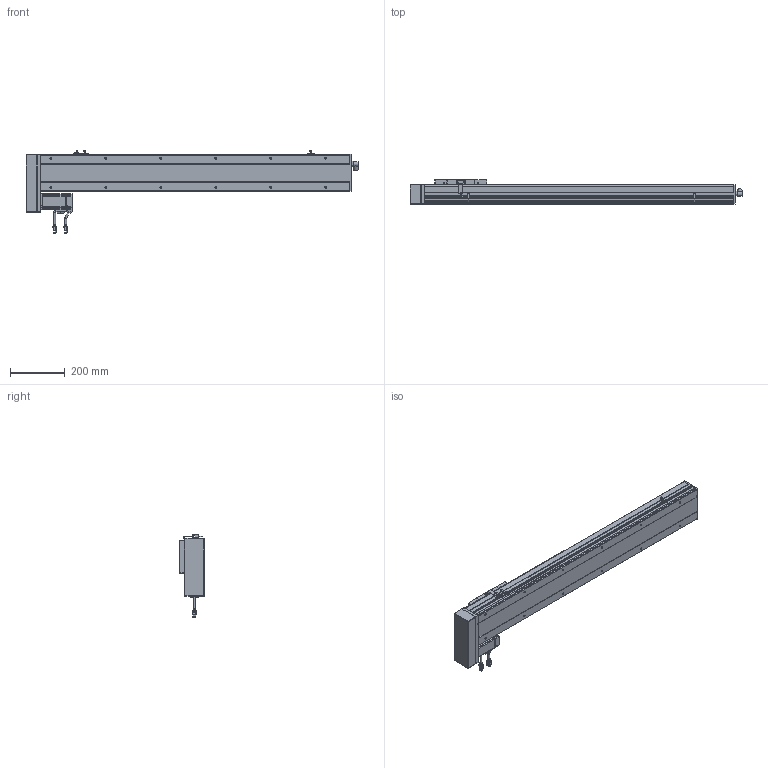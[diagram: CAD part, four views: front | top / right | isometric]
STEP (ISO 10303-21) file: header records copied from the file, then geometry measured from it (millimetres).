
FILE_DESCRIPTION(/* description */ ('STEP AP214'),/* implementation_level */ '2;1');
FILE_NAME(/* name */ 'PSC140-L05-S850-BR-P40-C1-N(0)',/* time_stamp */ '2022-06-13T03:35:34+02:00',/* author */ ('License CC BY-ND 4.0'),/* organization */ ('CADENAS'),/* preprocessor_version */ 'ST-DEVELOPER v18.102',/* originating_system */ 'PARTsolutions',/* authorisation */ ' ');
FILE_SCHEMA (('AUTOMOTIVE_DESIGN {1 0 10303 214 3 1 1}'));
Length unit declared in the file: millimetre
Products named in the file (11): PSC140-L05-S850-BR-P40-C1-N(0); P40-s2; P40-c2; P40-s1; P40-c1; P40-p1; PSC140-BR-body2; PSC140-sensor; PSC140-BR-SLIDER; PSC140-S850-BR-P40-C1_BODY1; PSC140-L05-S850-BR-P40-C1-N(0)_dummy
Assembly tree (12 placements, depth 2):
  PSC140-L05-S850-BR-P40-C1-N(0)
    P40-s2
    P40-c2
    P40-s1
    P40-c1
    P40-p1
    PSC140-BR-body2
    PSC140-sensor  x3
    PSC140-BR-SLIDER
    PSC140-S850-BR-P40-C1_BODY1
    PSC140-L05-S850-BR-P40-C1-N(0)_dummy
Bounding box: 1208 x 91 x 300.88 mm (x, y, z)
Volume: 12287178.4 mm3; surface area: 717465.8 mm2
Topology: 11 solids, 11 shells, 1231 faces, 3179 edges, 2103 vertices
Faces by surface type: plane 858, cylinder 314, cone 40, torus 19
Full cylindrical faces by diameter (mm): 1 x8, 2.6 x10, 2.8 x3, 3.3 x8, 4.5 x12, 4.6 x3, 4.917 x16, 5 x4, 5.5 x8, 6 x10, 7 x10, 9 x2, 10 x1, 11 x1, 12 x1, 13.74 x1, 14 x1, 16.4 x2, 16.5 x1, 36 x1, 50 x2
Entity records: 34086 total; most frequent: CARTESIAN_POINT 5953, DIRECTION 5731, ORIENTED_EDGE 5534, EDGE_CURVE 2767, LINE 2097, VECTOR 2097, VERTEX_POINT 1924, AXIS2_PLACEMENT_3D 1817
